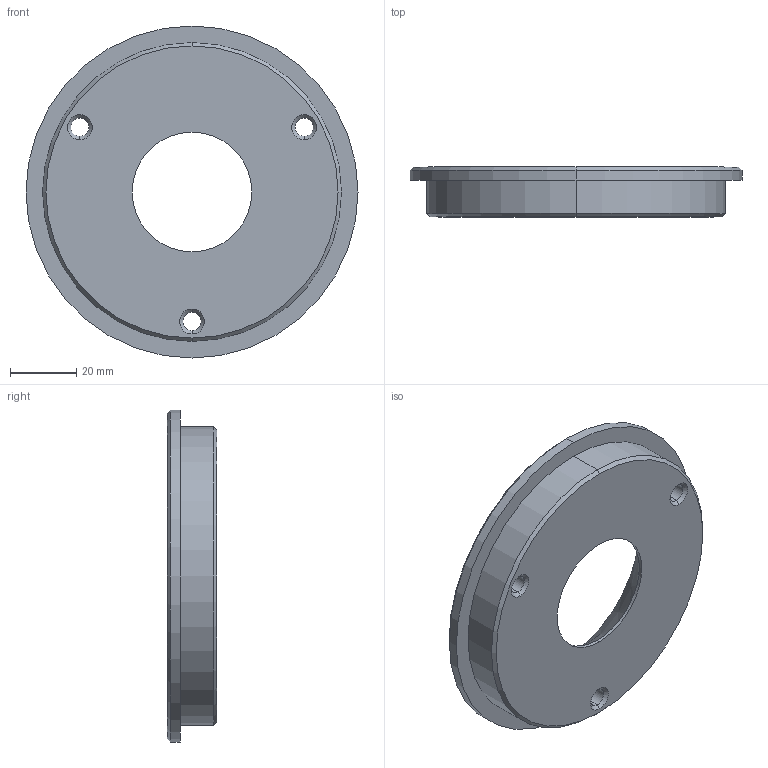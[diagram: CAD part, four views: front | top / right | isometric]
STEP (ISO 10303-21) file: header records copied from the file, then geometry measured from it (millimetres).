
FILE_DESCRIPTION (( 'STEP AP214' ), '1' );
FILE_NAME ('BR1000-100x15.STEP', '2020-02-05T12:17:14', ( 'August' ), ( '' ), 'SwSTEP 2.0', 'SolidWorks 2018', '' );
FILE_SCHEMA (( 'AUTOMOTIVE_DESIGN' ));
Length unit declared in the file: millimetre
Products named in the file (1): BR1000-100x15
Bounding box: 100 x 15 x 100 mm (x, y, z)
Volume: 69949.7 mm3; surface area: 19478.1 mm2
Topology: 1 solids, 1 shells, 42 faces, 90 edges, 54 vertices
Faces by surface type: cone 18, cylinder 18, plane 6
Entity records: 1194 total; most frequent: DIRECTION 230, CARTESIAN_POINT 187, ORIENTED_EDGE 180, AXIS2_PLACEMENT_3D 97, EDGE_CURVE 90, EDGE_LOOP 54, CIRCLE 54, VERTEX_POINT 54
